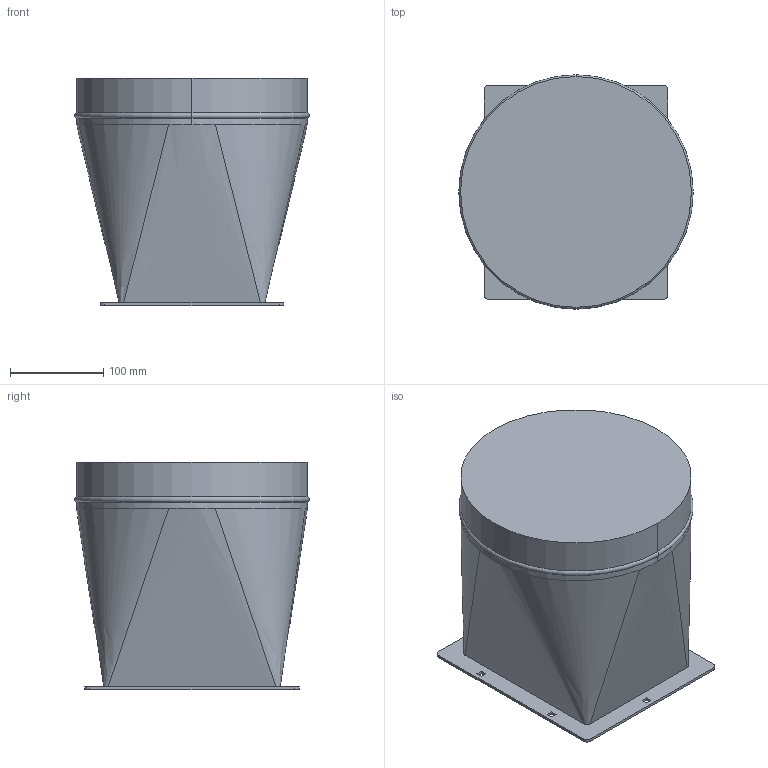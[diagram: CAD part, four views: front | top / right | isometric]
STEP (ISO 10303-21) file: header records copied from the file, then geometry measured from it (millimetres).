
FILE_DESCRIPTION((''),'2;1');
FILE_NAME('FBO_037','2023-01-24T15:24:38',('Tomas Bellgran'),(''),'CREO PARAMETRIC BY PTC INC, 2018260','CREO PARAMETRIC BY PTC INC, 2018260','');
FILE_SCHEMA(('AUTOMOTIVE_DESIGN { 1 0 10303 214 1 1 1 1 }'));
Length unit declared in the file: millimetre
Products named in the file (1): FBO_037
Bounding box: 252 x 252 x 244.3 mm (x, y, z)
Volume: 10241331.5 mm3; surface area: 293530.1 mm2
Topology: 1 solids, 1 shells, 49 faces, 134 edges, 88 vertices
Faces by surface type: plane 31, bspline 8, cylinder 8, torus 2
Entity records: 2444 total; most frequent: CARTESIAN_POINT 1006, ORIENTED_EDGE 268, DIRECTION 251, EDGE_CURVE 134, VECTOR 104, LINE 104, VERTEX_POINT 88, AXIS2_PLACEMENT_3D 72
